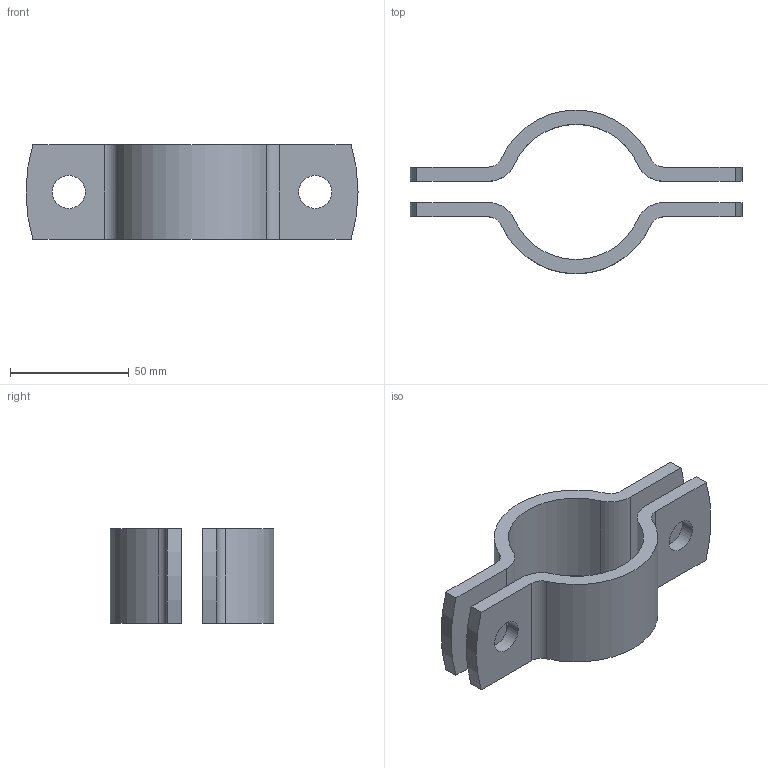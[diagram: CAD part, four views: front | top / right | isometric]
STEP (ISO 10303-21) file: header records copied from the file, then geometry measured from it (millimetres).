
FILE_DESCRIPTION (( 'STEP AP203' ), '1' );
FILE_NAME ('NW50-57 (DIN 3567).STEP', '2023-12-08T11:30:27', ( '' ), ( '' ), 'SwSTEP 2.0', 'SolidWorks 2023', '' );
FILE_SCHEMA (( 'CONFIG_CONTROL_DESIGN' ));
Length unit declared in the file: millimetre
Products named in the file (1): NW50-57 (DIN 3567)
Bounding box: 140 x 69 x 40 mm (x, y, z)
Volume: 71830.6 mm3; surface area: 29655.2 mm2
Topology: 2 solids, 2 shells, 36 faces, 96 edges, 64 vertices
Faces by surface type: cylinder 24, plane 12
Entity records: 1239 total; most frequent: DIRECTION 218, CARTESIAN_POINT 197, ORIENTED_EDGE 192, EDGE_CURVE 96, AXIS2_PLACEMENT_3D 85, VERTEX_POINT 64, VECTOR 48, CIRCLE 48
